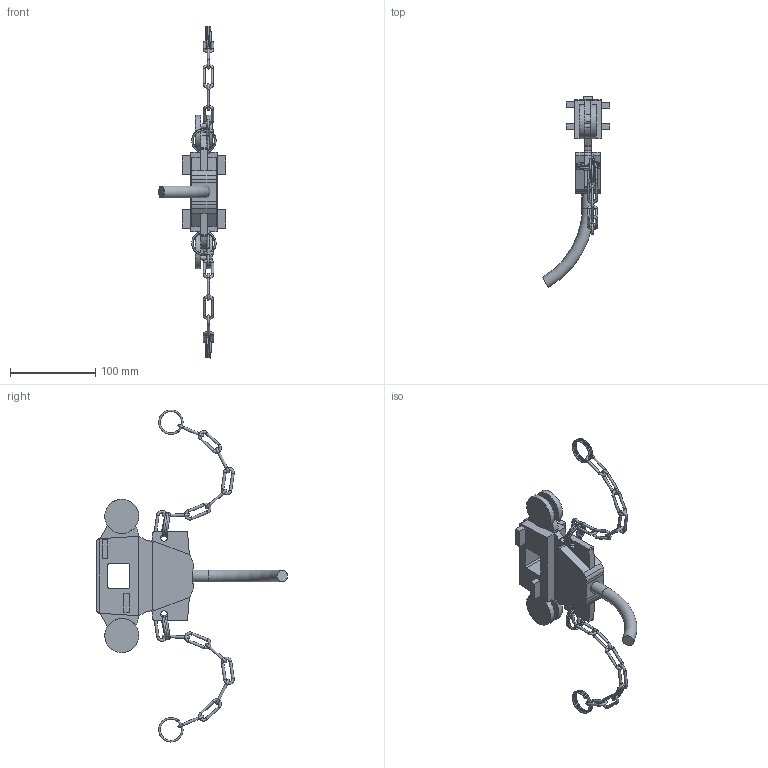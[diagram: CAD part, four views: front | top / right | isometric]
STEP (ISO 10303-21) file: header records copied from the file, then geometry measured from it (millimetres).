
FILE_DESCRIPTION(/* description */ ('Unknown'),/* implementation_level */ '2;1');
FILE_NAME(/* name */ 'MI203x_chariot simple_SPL',/* time_stamp */ '2018-08-16T10:21:37+02:00',/* author */ ('Unknown'),/* organization */ ('Unknown'),/* preprocessor_version */ 'ST-DEVELOPER v16.7',/* originating_system */ 'DEX',/* authorisation */ $);
FILE_SCHEMA (('AUTOMOTIVE_DESIGN {1 0 10303 214 3 1 1}'));
Length unit declared in the file: millimetre
Products named in the file (7): Assemblage chariot simplifié; corps de chariot simplifié; chaine4_1; MAILLON-CHAINETTE_1; ANNEAU-ELASTIQUE_1; ANNEAU-ELASTIQUE_1_mir; chaine4_1_mir
Assembly tree (23 placements, depth 3):
  Assemblage chariot simplifié
    corps de chariot simplifié
    chaine4_1
      MAILLON-CHAINETTE_1  x8
      ANNEAU-ELASTIQUE_1
    ANNEAU-ELASTIQUE_1_mir
    chaine4_1_mir
      MAILLON-CHAINETTE_1  x8
      ANNEAU-ELASTIQUE_1_mir
    ANNEAU-ELASTIQUE_1
Bounding box: 79 x 224.43 x 390.07 mm (x, y, z)
Volume: 300773.2 mm3; surface area: 74709.6 mm2
Topology: 21 solids, 21 shells, 199 faces, 528 edges, 344 vertices
Faces by surface type: plane 88, cylinder 69, bspline 41, torus 1
Full cylindrical faces by diameter (mm): 3 x32, 8 x2, 14 x1, 40 x4
Entity records: 6253 total; most frequent: CARTESIAN_POINT 1929, DIRECTION 708, ORIENTED_EDGE 642, EDGE_CURVE 321, AXIS2_PLACEMENT_3D 246, LINE 216, VECTOR 216, VERTEX_POINT 213
